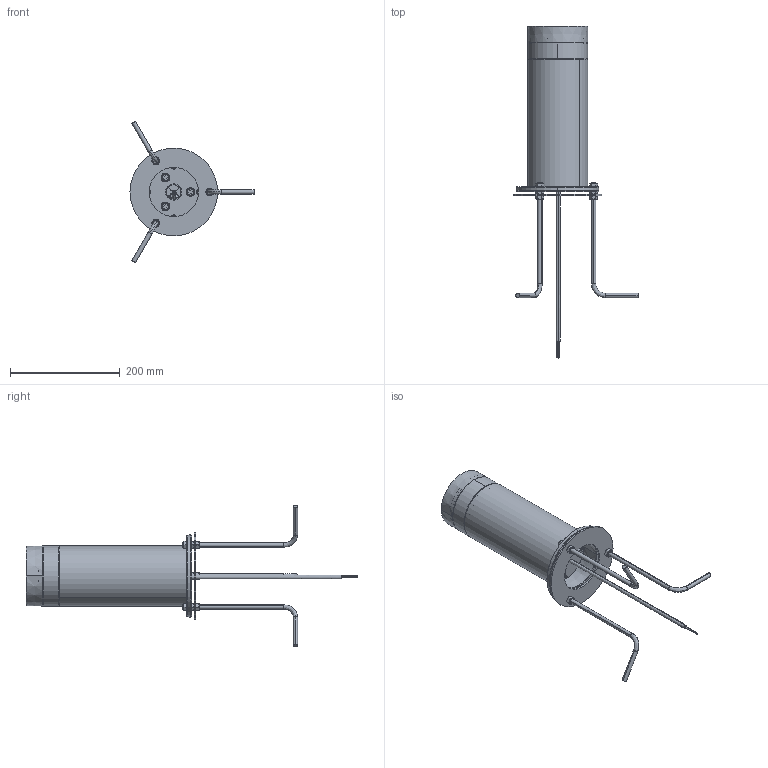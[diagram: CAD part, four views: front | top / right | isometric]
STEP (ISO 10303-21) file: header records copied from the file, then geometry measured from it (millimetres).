
FILE_DESCRIPTION((''),'2;1');
FILE_NAME('9AF-300_ASM','2024-09-18T',('C028'),(''),'CREO PARAMETRIC BY PTC INC, 2014190','CREO PARAMETRIC BY PTC INC, 2014190','');
FILE_SCHEMA(('CONFIG_CONTROL_DESIGN'));
Products named in the file (35): ___WO110__U_X___W_O__O___W___V2; ___WO110__U_X___W_O_________I_T; ___WO110__U_X___W_O_____PC_O_V2; ___WO110__U_X___W_O__O_______PC; M18; O-A1; ___WO110__U_X___W_O_V2______WO1_ASM; ______1; GUI_JIAO_QUAN; ___WO110__U_X___W_O____W_Z-5063_ASM; ____-____5; 9AB-03DUDINGZUOHOUGAI_1_8; ___WO110__U_X___W_O__U_O_-25766; LI_BAN-24; O-B1; DIAN_YUAN_01; DIAN_YUAN_02; ___WO110__U_X___W_O____W_-25881_ASM; 9AD-07_300_1_35; LI_BAN; GUANZI_1; 12-ZHUANGJIEGGAI_3; 6-23; DICHA14A_ASM_1_ASM; 9AB_FA_LAN_PAN_56; PIN; M8-25; 9AB-0308; YUAN_GUAN-800_ASM; 9AB-11_4__ANY; M8LUOMU_3__ANY; 9AB-10_5__ANY; 9ABDIZUO_AF5_ASM_333_ASM_1_ANY_ASM; _____WO110_E_U_X___W_O_V2_180_A_ASM; 9AF-300_ASM
Assembly tree (49 placements, depth 5):
  9AF-300_ASM
    _____WO110_E_U_X___W_O_V2_180_A_ASM
      ___WO110__U_X___W_O_V2______WO1_ASM
        ___WO110__U_X___W_O__O___W___V2
        ___WO110__U_X___W_O_________I_T
        ___WO110__U_X___W_O_____PC_O_V2
        ___WO110__U_X___W_O__O_______PC
        M18
        O-A1
      ___WO110__U_X___W_O____W_Z-5063_ASM
        ______1
        GUI_JIAO_QUAN  x2
      ___WO110__U_X___W_O____W_-25881_ASM
        ____-____5
        9AB-03DUDINGZUOHOUGAI_1_8
        ___WO110__U_X___W_O__U_O_-25766
        LI_BAN-24
        O-B1
        DIAN_YUAN_01
        DIAN_YUAN_02
      YUAN_GUAN-800_ASM
        9AD-07_300_1_35
        LI_BAN
        DICHA14A_ASM_1_ASM
          GUANZI_1
          12-ZHUANGJIEGGAI_3
          6-23
        9AB_FA_LAN_PAN_56
        PIN  x3
        M8-25  x3
        9AB-0308
      9ABDIZUO_AF5_ASM_333_ASM_1_ANY_ASM
        9AB-11_4__ANY  x3
        M8LUOMU_3__ANY  x9
        9AB-10_5__ANY
Bounding box: 226.5 x 606.03 x 257.75 mm (x, y, z)
Volume: 1055037.6 mm3; surface area: 620368.1 mm2
Topology: 43 solids, 43 shells, 2413 faces, 6173 edges, 3976 vertices
Faces by surface type: plane 1004, cylinder 605, cone 375, bspline 218, torus 134, extrusion 69, sphere 8
Entity records: 89758 total; most frequent: CARTESIAN_POINT 39741, ORIENTED_EDGE 10486, DIRECTION 9929, EDGE_CURVE 5243, AXIS2_PLACEMENT_3D 3550, VERTEX_POINT 3410, VECTOR 2829, LINE 2760
